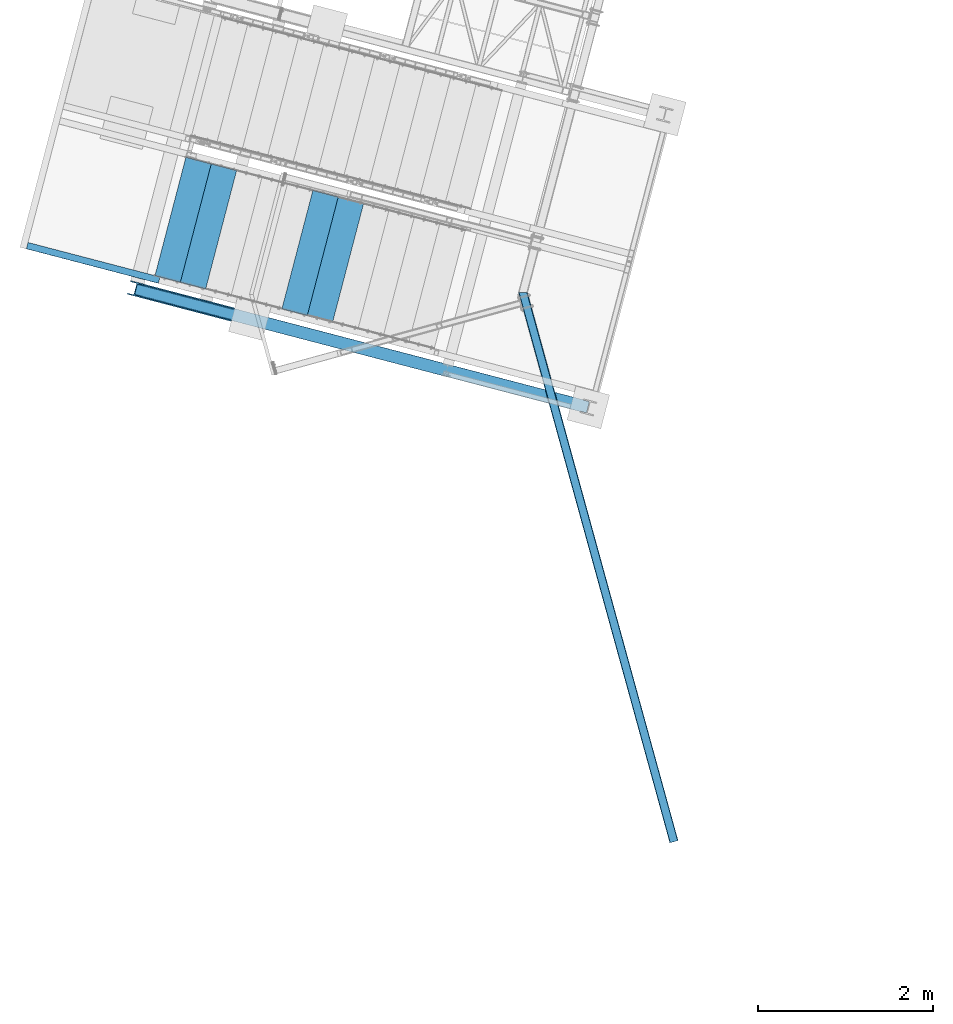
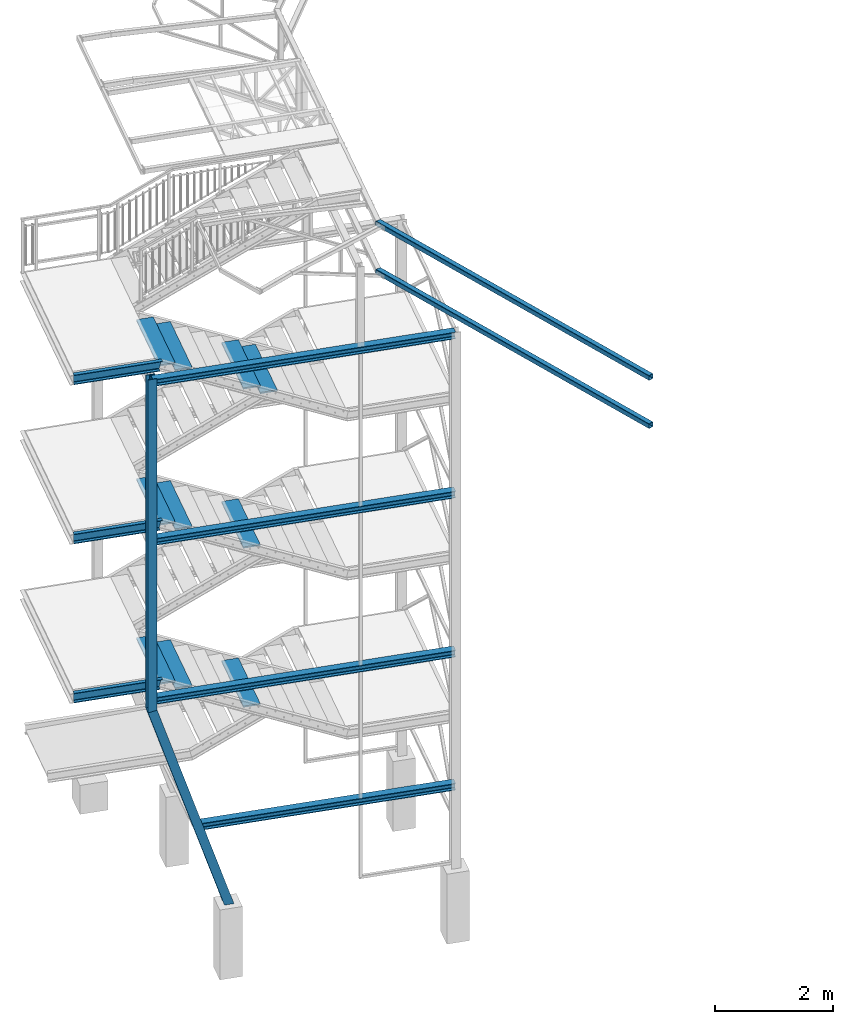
# One storey, part 33 of 169: 21 discrete accessories, 15 elements without a shape of their own.
"""IFC2X3 building model written with IfcOpenShell, lengths in millimetres."""

import ifcopenshell
import ifcopenshell.guid

model = None  # the IFC model being written
_history = None  # IfcOwnerHistory: only IFC2X3 demands one
_inside = {}  # id of a spatial element -> (the spatial element, [elements in it])
_under = {}  # id of a project, library or spatial element -> (it, [spatial elements below it])
_declared = {}  # id of a project -> (the project, [libraries it declares])
_typed = {}  # id of a type object -> (the type object, [elements of that type])
_made_of = {}  # id of a material, layer set ... -> (it, [elements and type objects made of it])


def new_model(schema):
    """Start an empty IFC model of exactly this schema.

    Asked for "IFC4X3", IfcOpenShell would pick the latest addendum, in which some entities
    have other attributes; the version numbers below select the first issue.
    IFC2X3 requires an IfcOwnerHistory on every rooted entity: one is made here for all.
    """
    global model, _history
    if schema == "IFC4X3":
        model = ifcopenshell.file(schema_version=(4, 3, 0, 0))
    else:
        model = ifcopenshell.file(schema=schema)
    _inside.clear()
    _under.clear()
    _declared.clear()
    _typed.clear()
    _made_of.clear()
    _history = None
    if model.schema == "IFC2X3":
        org = make("IfcOrganization", Name="unknown")
        user = make(
            "IfcPersonAndOrganization",
            ThePerson=make("IfcPerson", FamilyName="unknown"),
            TheOrganization=org,
        )
        app = make(
            "IfcApplication",
            ApplicationDeveloper=org,
            Version="unknown",
            ApplicationFullName="unknown",
            ApplicationIdentifier="unknown",
        )
        _history = make(
            "IfcOwnerHistory",
            OwningUser=user,
            OwningApplication=app,
            ChangeAction="ADDED",
            CreationDate=0,
        )
    return model


def make(cls, **values):
    """One entity of the class cls with the attributes given. An attribute that is None is left unset."""
    return model.create_entity(
        cls, **{name: value for name, value in values.items() if value is not None}
    )


def rooted(cls, **values):
    """An entity with a GlobalId (a new one), such as an element, a storey or a relation."""
    return make(cls, GlobalId=ifcopenshell.guid.new(), OwnerHistory=_history, **values)


def si_unit(unit_type, name, prefix=None):
    """IfcSIUnit, for example si_unit("LENGTHUNIT", "METRE", prefix="MILLI")."""
    return make("IfcSIUnit", UnitType=unit_type, Prefix=prefix, Name=name)


def assignment(units):
    """IfcUnitAssignment: the units of a project."""
    return None if units is None else make("IfcUnitAssignment", Units=units)


def point(xyz):
    """IfcCartesianPoint."""
    return None if xyz is None else make("IfcCartesianPoint", Coordinates=xyz)


def direction(xyz):
    """IfcDirection."""
    return None if xyz is None else make("IfcDirection", DirectionRatios=xyz)


def frame(location, z_axis=None, x_axis=None):
    """IfcAxis2Placement3D, a coordinate frame: its origin and axes. An axis left out is left unset."""
    return make(
        "IfcAxis2Placement3D",
        Location=point(location),
        Axis=direction(z_axis),
        RefDirection=direction(x_axis),
    )


def frame_2d(location, x_axis=None):
    """IfcAxis2Placement2D, a coordinate frame in the plane: its origin and x axis."""
    return make(
        "IfcAxis2Placement2D", Location=point(location), RefDirection=direction(x_axis)
    )


def origin_with_axes():
    """The frame at (0, 0, 0) with the z axis (0, 0, 1) and the x axis (1, 0, 0) written out."""
    return frame((0.0, 0.0, 0.0), z_axis=(0.0, 0.0, 1.0), x_axis=(1.0, 0.0, 0.0))


def origin_2d_with_axis():
    """The frame at (0, 0) in the plane with the x axis (1, 0) written out."""
    return frame_2d((0.0, 0.0), x_axis=(1.0, 0.0))


def place(relative_to, where):
    """IfcLocalPlacement: puts the frame where relative to a parent placement (None: the world)."""
    return make(
        "IfcLocalPlacement", PlacementRelTo=relative_to, RelativePlacement=where
    )


def context(
    kind, dimensions, precision=None, world=None, true_north=None, identifier=None
):
    """IfcGeometricRepresentationContext, for example the 3D "Model" context."""
    return make(
        "IfcGeometricRepresentationContext",
        ContextIdentifier=identifier,
        ContextType=kind,
        CoordinateSpaceDimension=dimensions,
        Precision=precision,
        WorldCoordinateSystem=world,
        TrueNorth=true_north,
    )


def subcontext(parent, identifier, kind, view, scale=None):
    """IfcGeometricRepresentationSubContext, for example "Body" below "Model"."""
    return make(
        "IfcGeometricRepresentationSubContext",
        ContextIdentifier=identifier,
        ContextType=kind,
        ParentContext=parent,
        TargetScale=scale,
        TargetView=view,
    )


def project(units=None, contexts=None):
    """IfcProject with its units and contexts."""
    return rooted(
        "IfcProject",
        Name="project",
        RepresentationContexts=contexts,
        UnitsInContext=assignment(units),
    )


def spatial(cls, under=None, at=None, **own):
    """A site, building, storey or space (cls), placed at a placement, below another one or the project."""
    s = rooted(cls, ObjectPlacement=at, **own)
    if under is not None:
        _under.setdefault(under.id(), (under, []))[1].append(s)
    return s


def polyline(points):
    """IfcPolyline through the points."""
    return make("IfcPolyline", Points=[point(p) for p in points])


def profile(cls, at=None, kind="AREA", **sizes):
    """A parametric profile (cls). Its sizes go by their IFC names, for example OverallWidth=200.0."""
    return make(cls, ProfileType=kind, Position=at, **sizes)


def hollow_rectangle(**sizes):
    """IfcRectangleHollowProfileDef."""
    return profile("IfcRectangleHollowProfileDef", **sizes)


def i_section(**sizes):
    """IfcIShapeProfileDef."""
    return profile("IfcIShapeProfileDef", **sizes)


def u_section(**sizes):
    """IfcUShapeProfileDef."""
    return profile("IfcUShapeProfileDef", **sizes)


def outline(outer, holes=None, kind="AREA"):
    """IfcArbitraryClosedProfileDef: a profile drawn as a closed curve; with holes, ...WithVoids."""
    if holes is None:
        return make("IfcArbitraryClosedProfileDef", ProfileType=kind, OuterCurve=outer)
    return make(
        "IfcArbitraryProfileDefWithVoids",
        ProfileType=kind,
        OuterCurve=outer,
        InnerCurves=holes,
    )


def extrude(swept, where, along, depth):
    """IfcExtrudedAreaSolid: the profile swept, set in the frame where, extruded along a direction by depth."""
    return make(
        "IfcExtrudedAreaSolid",
        SweptArea=swept,
        Position=where,
        ExtrudedDirection=direction(along),
        Depth=depth,
    )


def boolean(op, a, b):
    """IfcBooleanResult of two solids."""
    return make("IfcBooleanResult", Operator=op, FirstOperand=a, SecondOperand=b)


def clip(a, b, op="DIFFERENCE"):
    """IfcBooleanClippingResult: the solid a cut by the half space b."""
    return make(
        "IfcBooleanClippingResult", Operator=op, FirstOperand=a, SecondOperand=b
    )


def halfspace(plane, agree):
    """IfcHalfSpaceSolid: all space on one side of the plane z = 0 of the frame plane."""
    return make(
        "IfcHalfSpaceSolid",
        BaseSurface=make("IfcPlane", Position=plane),
        AgreementFlag=agree,
    )


def shape(context_of_items, identifier, shape_type, items):
    """IfcShapeRepresentation: the items that make up one representation, for example the "Body"."""
    return make(
        "IfcShapeRepresentation",
        ContextOfItems=context_of_items,
        RepresentationIdentifier=identifier,
        RepresentationType=shape_type,
        Items=items,
    )


def material(Name=None, Category=None):
    """IfcMaterial."""
    return make("IfcMaterial", Name=Name, Category=Category)


def made_of(thing, what):
    """Note that an element or type object is made of a material, layer set ...; save() writes the relation."""
    if what is not None:
        _made_of.setdefault(what.id(), (what, []))[1].append(thing)
    return thing


def type_object(cls, material=None, **own):
    """A type object (cls), such as IfcWallType, which elements share."""
    return made_of(rooted(cls, **own), material)


def element(
    cls,
    number,
    at=None,
    inside=None,
    cuts=None,
    type_object=None,
    material=None,
    context=None,
    identifier="Body",
    shape_type=None,
    held_by="IfcProductDefinitionShape",
    body=None,
    shapes=None,
    **own,
):
    """One element of the class cls, such as IfcWall. Its Tag is "e" and its number.

    at: its placement. inside: the storey or other place that contains it. cuts: it is an
    opening in that element (IfcRelVoidsElement). A single representation is given by context,
    identifier, shape_type and body (its items); several are given by shapes. held_by: the class
    of the entity that holds the representations. save() writes the other relations.
    """
    e = rooted(cls, Tag="e%d" % number, ObjectPlacement=at, **own)
    if body is not None:
        shapes = [shape(context, identifier, shape_type, body)]
    if shapes is not None:
        e.Representation = make(held_by, Representations=shapes)
    if inside is not None:
        _inside.setdefault(inside.id(), (inside, []))[1].append(e)
    if cuts is not None:
        rooted(
            "IfcRelVoidsElement", RelatingBuildingElement=cuts, RelatedOpeningElement=e
        )
    if type_object is not None:
        _typed.setdefault(type_object.id(), (type_object, []))[1].append(e)
    return made_of(e, material)


def aggregate(whole, parts):
    """IfcRelAggregates: a whole, such as a stair, and the parts it consists of."""
    return rooted("IfcRelAggregates", RelatingObject=whole, RelatedObjects=parts)


def save(model, path):
    """Write the relations noted so far, then the file.

    IfcRelAggregates (storeys below a building ...), IfcRelContainedInSpatialStructure (elements
    in a storey), IfcRelDefinesByType, IfcRelAssociatesMaterial and IfcRelDeclares: one each for
    every whole, place, type object, material and project.
    """
    for whole, parts in _under.values():
        aggregate(whole, parts)
    for where, things in _inside.values():
        rooted(
            "IfcRelContainedInSpatialStructure",
            RelatedElements=things,
            RelatingStructure=where,
        )
    for kind, things in _typed.values():
        rooted("IfcRelDefinesByType", RelatedObjects=things, RelatingType=kind)
    for what, things in _made_of.values():
        rooted("IfcRelAssociatesMaterial", RelatedObjects=things, RelatingMaterial=what)
    for by, libraries in _declared.values():
        rooted("IfcRelDeclares", RelatingContext=by, RelatedDefinitions=libraries)
    model.write(path)


model = new_model("IFC2X3")

# Units and contexts
model_context = context("Model", 3, precision=1e-05, world=origin_with_axes())
body_context = subcontext(model_context, "Body", "Model", "MODEL_VIEW")
ifc_project = project(units=[si_unit("LENGTHUNIT", "METRE", prefix="MILLI"), si_unit("AREAUNIT", "SQUARE_METRE"), si_unit("VOLUMEUNIT", "CUBIC_METRE"), si_unit("MASSUNIT", "GRAM", prefix="KILO"), si_unit("TIMEUNIT", "SECOND"), si_unit("PLANEANGLEUNIT", "RADIAN"), si_unit("SOLIDANGLEUNIT", "STERADIAN"), si_unit("THERMODYNAMICTEMPERATUREUNIT", "DEGREE_CELSIUS"), si_unit("LUMINOUSINTENSITYUNIT", "LUMEN")], contexts=[model_context])

# Site, building, storey
site_placement = place(None, origin_with_axes())
site = spatial("IfcSite", under=ifc_project, at=site_placement, Name="Undefined", CompositionType="ELEMENT")
building_placement = place(site_placement, origin_with_axes())
building = spatial("IfcBuilding", under=site, at=building_placement, Name="Undefined", CompositionType="ELEMENT")
storey_placement = place(building_placement, origin_with_axes())
storey = spatial("IfcBuildingStorey", under=building, at=storey_placement, Name="Undefined", CompositionType="ELEMENT", Elevation=0.0)

# Assembly, discrete accessories
assembly_1_placement = place(storey_placement, origin_with_axes())
assembly_1 = element("IfcElementAssembly", 1, at=assembly_1_placement, inside=storey, Name="Steel Assembly", AssemblyPlace="NOTDEFINED", PredefinedType="RIGID_FRAME")
ifc_material_1 = material(Name="STEEL/S235")
discrete_accessory_type_1 = type_object("IfcDiscreteAccessoryType", Name="BEAM")
discrete_accessory_1_placement = place(assembly_1_placement, frame((-24132.1487849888, 5632.8862653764, 13832.3761008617), z_axis=(-1.20319999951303e-05, -0.000145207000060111, 0.999999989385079), x_axis=(0.265016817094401, -0.964243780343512, -0.000136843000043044)))
discrete_accessory_1 = element("IfcDiscreteAccessory", 2, at=discrete_accessory_1_placement, type_object=discrete_accessory_type_1, material=ifc_material_1, Name="BEAM", ObjectType="SHS100*5", context=body_context, shape_type="Clipping", body=[
    clip(extrude(hollow_rectangle(XDim=100.0, YDim=100.0, WallThickness=5.0, InnerFilletRadius=5.0, OuterFilletRadius=10.0, at=origin_2d_with_axis()), frame((6524.3509407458, 4.40940386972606e-13, 0.0), z_axis=(-1.0, -3.46944695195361e-18, -1.38777878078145e-17), x_axis=(1.73472347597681e-18, -1.0, 0.0)), (0.0, 0.0, 1.0), 6550.94), halfspace(frame((-8.00061752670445e-06, -50.0280221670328, 0.0280535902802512), z_axis=(-0.965890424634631, 0.258951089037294, -0.00014520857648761), x_axis=(-2.21580194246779e-10, -0.000560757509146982, -0.999999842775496)), False)),
])
discrete_accessory_2_placement = place(assembly_1_placement, frame((-24132.1833539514, 5632.75386692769, 12832.3761102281), z_axis=(-1.20319999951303e-05, -0.000145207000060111, 0.999999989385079), x_axis=(0.265016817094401, -0.964243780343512, -0.000136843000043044)))
discrete_accessory_2 = element("IfcDiscreteAccessory", 3, at=discrete_accessory_2_placement, type_object=discrete_accessory_type_1, material=ifc_material_1, Name="BEAM", ObjectType="SHS100*5", context=body_context, shape_type="Clipping", body=[
    clip(extrude(hollow_rectangle(XDim=100.0, YDim=100.0, WallThickness=5.0, InnerFilletRadius=5.0, OuterFilletRadius=10.0, at=origin_2d_with_axis()), frame((6524.3509407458, 4.40940386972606e-13, 0.0), z_axis=(-1.0, -3.46944695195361e-18, -1.38777878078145e-17), x_axis=(1.73472347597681e-18, -1.0, 0.0)), (0.0, 0.0, 1.0), 6550.94), halfspace(frame((-8.00061752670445e-06, -50.0280221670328, 0.0280535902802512), z_axis=(-0.965890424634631, 0.258951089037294, -0.00014520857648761), x_axis=(-2.21580194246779e-10, -0.000560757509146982, -0.999999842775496)), False)),
])
aggregate(assembly_1, [discrete_accessory_1, discrete_accessory_2])

# Assembly, discrete accessory
assembly_2_placement = place(storey_placement, origin_with_axes())
assembly_2 = element("IfcElementAssembly", 4, at=assembly_2_placement, inside=storey, Name="Steel Assembly", AssemblyPlace="NOTDEFINED", PredefinedType="RIGID_FRAME")
ifc_material_2 = material(Name="STEEL/S235JR")
discrete_accessory_type_2 = type_object("IfcDiscreteAccessoryType", Name="STOPNIE")
discrete_accessory_3_placement = place(assembly_2_placement, frame((-27837.4602567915, 7130.10257650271, 12215.3215824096), z_axis=(-2.54700353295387e-10, 0.0, -1.0), x_axis=(-0.252694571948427, -0.96754609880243, 0.0)))
discrete_accessory_3 = element("IfcDiscreteAccessory", 5, at=discrete_accessory_3_placement, type_object=discrete_accessory_type_2, material=ifc_material_2, Name="STOPNIE", ObjectType="PL30*300", context=body_context, shape_type="SweptSolid", body=[
    extrude(outline(polyline([(1400.00000144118, 150.000000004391), (1400.0000014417, -149.999999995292), (3.45607986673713e-11, -150.00000000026), (-3.09228198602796e-11, 150.000000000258), (1400.00000144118, 150.000000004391)])), frame((1.81898940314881e-12, 3.72231275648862e-23, -15.0000000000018), z_axis=(0.0, 0.0, 1.0), x_axis=(1.0, 0.0, 0.0)), (0.0, 0.0, 1.0), 30.0),
])
aggregate(assembly_2, [discrete_accessory_3])

assembly_3_placement = place(storey_placement, origin_with_axes())
assembly_3 = element("IfcElementAssembly", 6, at=assembly_3_placement, inside=storey, Name="Steel Assembly", AssemblyPlace="NOTDEFINED", PredefinedType="RIGID_FRAME")
discrete_accessory_4_placement = place(assembly_3_placement, frame((-27547.1964237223, 7054.29420414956, 12065.3215824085), z_axis=(-2.54700353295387e-10, 0.0, -1.0), x_axis=(-0.252694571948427, -0.96754609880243, 0.0)))
discrete_accessory_4 = element("IfcDiscreteAccessory", 7, at=discrete_accessory_4_placement, type_object=discrete_accessory_type_2, material=ifc_material_2, Name="STOPNIE", ObjectType="PL30*300", context=body_context, shape_type="SweptSolid", body=[
    extrude(outline(polyline([(1400.00000144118, 150.000000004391), (1400.0000014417, -149.999999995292), (3.45607986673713e-11, -150.00000000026), (-3.09228198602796e-11, 150.000000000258), (1400.00000144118, 150.000000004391)])), frame((1.81898940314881e-12, 3.72231275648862e-23, -15.0000000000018), z_axis=(0.0, 0.0, 1.0), x_axis=(1.0, 0.0, 0.0)), (0.0, 0.0, 1.0), 30.0),
])
aggregate(assembly_3, [discrete_accessory_4])

assembly_4_placement = place(storey_placement, origin_with_axes())
assembly_4 = element("IfcElementAssembly", 8, at=assembly_4_placement, inside=storey, Name="Steel Assembly", AssemblyPlace="NOTDEFINED", PredefinedType="RIGID_FRAME")
discrete_accessory_5_placement = place(assembly_4_placement, frame((-26386.1410914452, 6751.06071473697, 11465.3215824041), z_axis=(-2.54700353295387e-10, 0.0, -1.0), x_axis=(-0.252694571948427, -0.96754609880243, 0.0)))
discrete_accessory_5 = element("IfcDiscreteAccessory", 9, at=discrete_accessory_5_placement, type_object=discrete_accessory_type_2, material=ifc_material_2, Name="STOPNIE", ObjectType="PL30*300", context=body_context, shape_type="SweptSolid", body=[
    extrude(outline(polyline([(1400.00000144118, 150.000000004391), (1400.0000014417, -149.999999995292), (3.45607986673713e-11, -150.00000000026), (-3.09228198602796e-11, 150.000000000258), (1400.00000144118, 150.000000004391)])), frame((1.81898940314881e-12, 3.72231275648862e-23, -15.0000000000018), z_axis=(0.0, 0.0, 1.0), x_axis=(1.0, 0.0, 0.0)), (0.0, 0.0, 1.0), 30.0),
])
aggregate(assembly_4, [discrete_accessory_5])

assembly_5_placement = place(storey_placement, origin_with_axes())
assembly_5 = element("IfcElementAssembly", 10, at=assembly_5_placement, inside=storey, Name="Steel Assembly", AssemblyPlace="NOTDEFINED", PredefinedType="RIGID_FRAME")
discrete_accessory_6_placement = place(assembly_5_placement, frame((-26095.8772583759, 6675.25234238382, 11315.321582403), z_axis=(-2.54700353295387e-10, 0.0, -1.0), x_axis=(-0.252694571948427, -0.96754609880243, 0.0)))
discrete_accessory_6 = element("IfcDiscreteAccessory", 11, at=discrete_accessory_6_placement, type_object=discrete_accessory_type_2, material=ifc_material_2, Name="STOPNIE", ObjectType="PL30*300", context=body_context, shape_type="SweptSolid", body=[
    extrude(outline(polyline([(1400.00000144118, 150.000000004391), (1400.0000014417, -149.999999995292), (3.45607986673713e-11, -150.00000000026), (-3.09228198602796e-11, 150.000000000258), (1400.00000144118, 150.000000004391)])), frame((1.81898940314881e-12, 3.72231275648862e-23, -15.0000000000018), z_axis=(0.0, 0.0, 1.0), x_axis=(1.0, 0.0, 0.0)), (0.0, 0.0, 1.0), 30.0),
])
aggregate(assembly_5, [discrete_accessory_6])

assembly_6_placement = place(storey_placement, origin_with_axes())
assembly_6 = element("IfcElementAssembly", 12, at=assembly_6_placement, inside=storey, Name="Steel Assembly", AssemblyPlace="NOTDEFINED", PredefinedType="RIGID_FRAME")
discrete_accessory_7_placement = place(assembly_6_placement, frame((-27837.5743341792, 7129.66566154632, 8915.3216133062), z_axis=(-2.54700353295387e-10, 0.0, -1.0), x_axis=(-0.252694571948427, -0.96754609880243, 0.0)))
discrete_accessory_7 = element("IfcDiscreteAccessory", 13, at=discrete_accessory_7_placement, type_object=discrete_accessory_type_2, material=ifc_material_2, Name="STOPNIE", ObjectType="PL30*300", context=body_context, shape_type="SweptSolid", body=[
    extrude(outline(polyline([(1400.00000144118, 150.000000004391), (1400.0000014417, -149.999999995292), (3.45607986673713e-11, -150.00000000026), (-3.09228198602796e-11, 150.000000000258), (1400.00000144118, 150.000000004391)])), frame((1.81898940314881e-12, 3.72231275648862e-23, -15.0000000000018), z_axis=(0.0, 0.0, 1.0), x_axis=(1.0, 0.0, 0.0)), (0.0, 0.0, 1.0), 30.0),
])
aggregate(assembly_6, [discrete_accessory_7])

assembly_7_placement = place(storey_placement, origin_with_axes())
assembly_7 = element("IfcElementAssembly", 14, at=assembly_7_placement, inside=storey, Name="Steel Assembly", AssemblyPlace="NOTDEFINED", PredefinedType="RIGID_FRAME")
discrete_accessory_8_placement = place(assembly_7_placement, frame((-27547.3105011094, 7053.85728919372, 8765.32161330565), z_axis=(-2.54700353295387e-10, 0.0, -1.0), x_axis=(-0.252694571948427, -0.96754609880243, 0.0)))
discrete_accessory_8 = element("IfcDiscreteAccessory", 15, at=discrete_accessory_8_placement, type_object=discrete_accessory_type_2, material=ifc_material_2, Name="STOPNIE", ObjectType="PL30*300", context=body_context, shape_type="SweptSolid", body=[
    extrude(outline(polyline([(1400.00000144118, 150.000000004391), (1400.0000014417, -149.999999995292), (3.45607986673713e-11, -150.00000000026), (-3.09228198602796e-11, 150.000000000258), (1400.00000144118, 150.000000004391)])), frame((1.81898940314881e-12, 3.72231275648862e-23, -15.0000000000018), z_axis=(0.0, 0.0, 1.0), x_axis=(1.0, 0.0, 0.0)), (0.0, 0.0, 1.0), 30.0),
])
aggregate(assembly_7, [discrete_accessory_8])

assembly_8_placement = place(storey_placement, origin_with_axes())
assembly_8 = element("IfcElementAssembly", 16, at=assembly_8_placement, inside=storey, Name="Steel Assembly", AssemblyPlace="NOTDEFINED", PredefinedType="RIGID_FRAME")
discrete_accessory_9_placement = place(assembly_8_placement, frame((-26386.2551688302, 6750.62379978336, 8165.32161330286), z_axis=(-2.54700353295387e-10, 0.0, -1.0), x_axis=(-0.252694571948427, -0.96754609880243, 0.0)))
discrete_accessory_9 = element("IfcDiscreteAccessory", 17, at=discrete_accessory_9_placement, type_object=discrete_accessory_type_2, material=ifc_material_2, Name="STOPNIE", ObjectType="PL30*300", context=body_context, shape_type="SweptSolid", body=[
    extrude(outline(polyline([(1400.00000144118, 150.000000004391), (1400.0000014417, -149.999999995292), (3.45607986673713e-11, -150.00000000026), (-3.09228198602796e-11, 150.000000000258), (1400.00000144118, 150.000000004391)])), frame((1.81898940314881e-12, 3.72231275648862e-23, -15.0000000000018), z_axis=(0.0, 0.0, 1.0), x_axis=(1.0, 0.0, 0.0)), (0.0, 0.0, 1.0), 30.0),
])
aggregate(assembly_8, [discrete_accessory_9])

assembly_9_placement = place(storey_placement, origin_with_axes())
assembly_9 = element("IfcElementAssembly", 18, at=assembly_9_placement, inside=storey, Name="Steel Assembly", AssemblyPlace="NOTDEFINED", PredefinedType="RIGID_FRAME")
discrete_accessory_10_placement = place(assembly_9_placement, frame((-27837.6884116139, 7129.22874660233, 5615.32164420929), z_axis=(-2.54700353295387e-10, 0.0, -1.0), x_axis=(-0.252694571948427, -0.96754609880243, 0.0)))
discrete_accessory_10 = element("IfcDiscreteAccessory", 19, at=discrete_accessory_10_placement, type_object=discrete_accessory_type_2, material=ifc_material_2, Name="STOPNIE", ObjectType="PL30*300", context=body_context, shape_type="SweptSolid", body=[
    extrude(outline(polyline([(1400.00000144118, 150.000000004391), (1400.0000014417, -149.999999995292), (3.45607986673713e-11, -150.00000000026), (-3.09228198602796e-11, 150.000000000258), (1400.00000144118, 150.000000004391)])), frame((1.81898940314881e-12, 3.72231275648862e-23, -15.0000000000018), z_axis=(0.0, 0.0, 1.0), x_axis=(1.0, 0.0, 0.0)), (0.0, 0.0, 1.0), 30.0),
])
aggregate(assembly_9, [discrete_accessory_10])

assembly_10_placement = place(storey_placement, origin_with_axes())
assembly_10 = element("IfcElementAssembly", 20, at=assembly_10_placement, inside=storey, Name="Steel Assembly", AssemblyPlace="NOTDEFINED", PredefinedType="RIGID_FRAME")
discrete_accessory_11_placement = place(assembly_10_placement, frame((-27547.4245785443, 7053.42037425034, 5465.32164420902), z_axis=(-2.54700353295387e-10, 0.0, -1.0), x_axis=(-0.252694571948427, -0.96754609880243, 0.0)))
discrete_accessory_11 = element("IfcDiscreteAccessory", 21, at=discrete_accessory_11_placement, type_object=discrete_accessory_type_2, material=ifc_material_2, Name="STOPNIE", ObjectType="PL30*300", context=body_context, shape_type="SweptSolid", body=[
    extrude(outline(polyline([(1400.00000144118, 150.000000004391), (1400.0000014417, -149.999999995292), (3.45607986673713e-11, -150.00000000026), (-3.09228198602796e-11, 150.000000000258), (1400.00000144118, 150.000000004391)])), frame((1.81898940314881e-12, 3.72231275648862e-23, -15.0000000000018), z_axis=(0.0, 0.0, 1.0), x_axis=(1.0, 0.0, 0.0)), (0.0, 0.0, 1.0), 30.0),
])
aggregate(assembly_10, [discrete_accessory_11])

assembly_11_placement = place(storey_placement, origin_with_axes())
assembly_11 = element("IfcElementAssembly", 22, at=assembly_11_placement, inside=storey, Name="Steel Assembly", AssemblyPlace="NOTDEFINED", PredefinedType="RIGID_FRAME")
discrete_accessory_12_placement = place(assembly_11_placement, frame((-26386.3692462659, 6750.18688484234, 4865.32164420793), z_axis=(-2.54700353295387e-10, 0.0, -1.0), x_axis=(-0.252694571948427, -0.96754609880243, 0.0)))
discrete_accessory_12 = element("IfcDiscreteAccessory", 23, at=discrete_accessory_12_placement, type_object=discrete_accessory_type_2, material=ifc_material_2, Name="STOPNIE", ObjectType="PL30*300", context=body_context, shape_type="SweptSolid", body=[
    extrude(outline(polyline([(1400.00000144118, 150.000000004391), (1400.0000014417, -149.999999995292), (3.45607986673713e-11, -150.00000000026), (-3.09228198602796e-11, 150.000000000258), (1400.00000144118, 150.000000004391)])), frame((1.81898940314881e-12, 3.72231275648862e-23, -15.0000000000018), z_axis=(0.0, 0.0, 1.0), x_axis=(1.0, 0.0, 0.0)), (0.0, 0.0, 1.0), 30.0),
])
aggregate(assembly_11, [discrete_accessory_12])

assembly_12_placement = place(storey_placement, origin_with_axes())
assembly_12 = element("IfcElementAssembly", 24, at=assembly_12_placement, inside=storey, Name="Steel Assembly", AssemblyPlace="NOTDEFINED", PredefinedType="RIGID_FRAME")
discrete_accessory_type_3 = type_object("IfcDiscreteAccessoryType", Name="BELKA")
discrete_accessory_13_placement = place(assembly_12_placement, frame((-29797.1597386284, 6156.20109549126, 12250.3215669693), z_axis=(0.0, 0.0, 1.0), x_axis=(0.96754609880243, -0.252694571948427, 0.0)))
discrete_accessory_13 = element("IfcDiscreteAccessory", 25, at=discrete_accessory_13_placement, type_object=discrete_accessory_type_3, material=ifc_material_1, Name="BELKA", ObjectType="UPN200", context=body_context, shape_type="Clipping", body=[
    clip(extrude(u_section(Depth=200.0, FlangeWidth=75.0, WebThickness=8.5, FlangeThickness=11.5, FilletRadius=11.5, EdgeRadius=6.0, at=origin_2d_with_axis()), frame((1597.2768548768, 0.0, 0.0), z_axis=(-1.0, -3.46944695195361e-18, -1.38777878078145e-17), x_axis=(1.73472347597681e-18, -1.0, 0.0)), (0.0, 0.0, 1.0), 1597.28), halfspace(frame((1559.99999933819, -37.499998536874, 99.9999999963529), z_axis=(-0.973248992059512, 5.5925641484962e-10, 0.229752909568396), x_axis=(1.73472347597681e-18, -1.0, 0.0)), True)),
])
aggregate(assembly_12, [discrete_accessory_13])

assembly_13_placement = place(storey_placement, origin_with_axes())
assembly_13 = element("IfcElementAssembly", 26, at=assembly_13_placement, inside=storey, Name="Steel Assembly", AssemblyPlace="NOTDEFINED", PredefinedType="RIGID_FRAME")
discrete_accessory_14_placement = place(assembly_13_placement, frame((-29797.2738160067, 6155.76418052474, 8950.32159785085), z_axis=(0.0, 0.0, 1.0), x_axis=(0.96754609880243, -0.252694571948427, 0.0)))
discrete_accessory_14 = element("IfcDiscreteAccessory", 27, at=discrete_accessory_14_placement, type_object=discrete_accessory_type_3, material=ifc_material_1, Name="BELKA", ObjectType="UPN200", context=body_context, shape_type="Clipping", body=[
    clip(extrude(u_section(Depth=200.0, FlangeWidth=75.0, WebThickness=8.5, FlangeThickness=11.5, FilletRadius=11.5, EdgeRadius=6.0, at=origin_2d_with_axis()), frame((1597.2768548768, 0.0, 0.0), z_axis=(-1.0, -3.46944695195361e-18, -1.38777878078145e-17), x_axis=(1.73472347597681e-18, -1.0, 0.0)), (0.0, 0.0, 1.0), 1597.28), halfspace(frame((1559.99999933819, -37.499998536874, 99.9999999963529), z_axis=(-0.973248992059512, 5.5925641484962e-10, 0.229752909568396), x_axis=(1.73472347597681e-18, -1.0, 0.0)), True)),
])
aggregate(assembly_13, [discrete_accessory_14])

assembly_14_placement = place(storey_placement, origin_with_axes())
assembly_14 = element("IfcElementAssembly", 28, at=assembly_14_placement, inside=storey, Name="Steel Assembly", AssemblyPlace="NOTDEFINED", PredefinedType="RIGID_FRAME")
discrete_accessory_15_placement = place(assembly_14_placement, frame((-29797.3878934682, 6155.32726560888, 5650.32162876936), z_axis=(0.0, 0.0, 1.0), x_axis=(0.96754609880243, -0.252694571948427, 0.0)))
discrete_accessory_15 = element("IfcDiscreteAccessory", 29, at=discrete_accessory_15_placement, type_object=discrete_accessory_type_3, material=ifc_material_1, Name="BELKA", ObjectType="UPN200", context=body_context, shape_type="Clipping", body=[
    clip(extrude(u_section(Depth=200.0, FlangeWidth=75.0, WebThickness=8.5, FlangeThickness=11.5, FilletRadius=11.5, EdgeRadius=6.0, at=origin_2d_with_axis()), frame((1597.2768548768, 0.0, 0.0), z_axis=(-1.0, -3.46944695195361e-18, -1.38777878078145e-17), x_axis=(1.73472347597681e-18, -1.0, 0.0)), (0.0, 0.0, 1.0), 1597.28), halfspace(frame((1559.99999933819, -37.499998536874, 99.9999999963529), z_axis=(-0.973248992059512, 5.5925641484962e-10, 0.229752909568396), x_axis=(1.73472347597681e-18, -1.0, 0.0)), True)),
])
aggregate(assembly_14, [discrete_accessory_15])

# Assembly, discrete accessories
assembly_15_placement = place(storey_placement, origin_with_axes())
assembly_15 = element("IfcElementAssembly", 30, at=assembly_15_placement, inside=storey, Name="Steel Assembly", AssemblyPlace="NOTDEFINED", PredefinedType="RIGID_FRAME")
discrete_accessory_type_4 = type_object("IfcDiscreteAccessoryType", Name="COLUMN")
discrete_accessory_16_placement = place(assembly_15_placement, frame((-28480.0362585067, 5639.03828258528, 12070.4454073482), z_axis=(3.4552000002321e-05, 0.000132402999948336, 0.999999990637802), x_axis=(0.967563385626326, -0.252628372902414, 0.0)))
discrete_accessory_16 = element("IfcDiscreteAccessory", 31, at=discrete_accessory_16_placement, type_object=discrete_accessory_type_4, material=ifc_material_1, Name="COLUMN", ObjectType="HEB140", context=body_context, shape_type="CSG", body=[
    boolean("DIFFERENCE", boolean("DIFFERENCE", boolean("DIFFERENCE", boolean("DIFFERENCE", boolean("DIFFERENCE", boolean("DIFFERENCE", boolean("DIFFERENCE", boolean("DIFFERENCE", extrude(i_section(OverallWidth=140.0, OverallDepth=140.0, WebThickness=7.0, FlangeThickness=12.0, FilletRadius=12.0, at=origin_2d_with_axis()), frame((5265.00000257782, -1.62481139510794e-13, 1.81902508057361e-12), z_axis=(-1.0, -3.46944695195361e-18, -1.38777878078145e-17), x_axis=(1.73472347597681e-18, -1.0, 0.0)), (0.0, 0.0, 1.0), 5340.0), extrude(outline(polyline([(0.0, 0.0), (15.9999999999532, -1.09139364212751e-11), (15.9999999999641, 10.8000001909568), (0.699999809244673, 26.1000003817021), (-1.00044417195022e-11, 26.1000003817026), (0.0, 0.0)])), frame((-86.0999985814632, -67.0000029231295, 75.000000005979), z_axis=(-2.54700353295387e-10, 0.0, -1.0), x_axis=(0.0, 1.0, 0.0)), (0.0, 0.0, 1.0), 150.0)), extrude(outline(polyline([(0.0, 0.0), (15.9999999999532, -1.09139364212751e-11), (15.9999999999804, 26.1000003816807), (15.300000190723, 26.1000003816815), (-4.89245427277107e-12, 10.8000001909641), (0.0, 0.0)])), frame((-86.0999985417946, 50.9999971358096, 75.0000000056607), z_axis=(-2.54700353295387e-10, 0.0, -1.0), x_axis=(0.0, 1.0, 0.0)), (0.0, 0.0, 1.0), 150.0)), extrude(outline(polyline([(0.0, 0.0), (85.0000000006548, 2.81943357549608e-10), (85.0000000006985, 14.0000028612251), (2.02362571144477e-11, 14.000007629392), (0.0, 0.0)])), frame((-84.999998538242, 65.9999970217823, -79.9999999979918), z_axis=(0.0, 0.0, 1.0), x_axis=(1.0, 0.0, 0.0)), (0.0, 0.0, 1.0), 160.0)), extrude(outline(polyline([(0.0, 0.0), (85.0000000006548, 2.81943357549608e-10), (85.0000000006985, 14.0000028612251), (2.02362571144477e-11, 14.000007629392), (0.0, 0.0)])), frame((-84.9999985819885, -66.0000029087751, 80.0000000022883), z_axis=(-2.54700353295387e-10, 0.0, -1.0), x_axis=(1.0, 0.0, 0.0)), (0.0, 0.0, 1.0), 160.0)), extrude(outline(polyline([(0.0, 0.0), (19832.263671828, -6.06269168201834e-09), (19832.263671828, 14.0000047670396), (2.02362571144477e-11, 14.000007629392), (0.0, 0.0)])), frame((25022.2628449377, 65.9999885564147, 79.9999957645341), z_axis=(-2.54700353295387e-10, 0.0, -1.0), x_axis=(-1.0, -3.46944695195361e-18, -1.38777878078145e-17)), (0.0, 0.0, 1.0), 160.0)), extrude(outline(polyline([(0.0, 0.0), (19832.263671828, -6.06269168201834e-09), (19832.263671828, 14.0000047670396), (2.02362571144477e-11, 14.000007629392), (0.0, 0.0)])), frame((25022.2628448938, -66.000011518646, -80.0000041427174), z_axis=(0.0, 0.0, 1.0), x_axis=(-1.0, -3.46944695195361e-18, -1.38777878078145e-17)), (0.0, 0.0, 1.0), 160.0)), halfspace(frame((5265.00000282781, 69.9999999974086, 1070.00000396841), z_axis=(1.0, 0.0, 0.0), x_axis=(0.0, 1.0, 0.0)), False)), halfspace(frame((-74.9999983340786, -69.999999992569, 1070.0000011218), z_axis=(-1.0, -3.46944695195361e-18, -1.38777878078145e-17), x_axis=(1.73472347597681e-18, -1.0, 0.0)), False)),
])
discrete_accessory_17_placement = place(assembly_15_placement, frame((-28480.1503359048, 5638.60136763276, 8770.44543824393), z_axis=(3.4552000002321e-05, 0.000132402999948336, 0.999999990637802), x_axis=(0.967563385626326, -0.252628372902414, 0.0)))
discrete_accessory_17 = element("IfcDiscreteAccessory", 32, at=discrete_accessory_17_placement, type_object=discrete_accessory_type_4, material=ifc_material_1, Name="COLUMN", ObjectType="HEB140", context=body_context, shape_type="CSG", body=[
    boolean("DIFFERENCE", boolean("DIFFERENCE", boolean("DIFFERENCE", boolean("DIFFERENCE", boolean("DIFFERENCE", boolean("DIFFERENCE", boolean("DIFFERENCE", boolean("DIFFERENCE", extrude(i_section(OverallWidth=140.0, OverallDepth=140.0, WebThickness=7.0, FlangeThickness=12.0, FilletRadius=12.0, at=origin_2d_with_axis()), frame((5265.00000257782, -1.62481139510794e-13, 1.81902508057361e-12), z_axis=(-1.0, -3.46944695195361e-18, -1.38777878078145e-17), x_axis=(1.73472347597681e-18, -1.0, 0.0)), (0.0, 0.0, 1.0), 5340.0), extrude(outline(polyline([(0.0, 0.0), (15.9999999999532, -1.09139364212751e-11), (15.9999999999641, 10.8000001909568), (0.699999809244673, 26.1000003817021), (-1.00044417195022e-11, 26.1000003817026), (0.0, 0.0)])), frame((-86.0999985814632, -67.0000029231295, 75.000000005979), z_axis=(-2.54700353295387e-10, 0.0, -1.0), x_axis=(0.0, 1.0, 0.0)), (0.0, 0.0, 1.0), 150.0)), extrude(outline(polyline([(0.0, 0.0), (15.9999999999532, -1.09139364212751e-11), (15.9999999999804, 26.1000003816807), (15.300000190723, 26.1000003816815), (-4.89245427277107e-12, 10.8000001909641), (0.0, 0.0)])), frame((-86.0999985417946, 50.9999971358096, 75.0000000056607), z_axis=(-2.54700353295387e-10, 0.0, -1.0), x_axis=(0.0, 1.0, 0.0)), (0.0, 0.0, 1.0), 150.0)), extrude(outline(polyline([(0.0, 0.0), (85.0000000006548, 2.81943357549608e-10), (85.0000000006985, 14.0000028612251), (2.02362571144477e-11, 14.000007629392), (0.0, 0.0)])), frame((-84.999998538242, 65.9999970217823, -79.9999999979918), z_axis=(0.0, 0.0, 1.0), x_axis=(1.0, 0.0, 0.0)), (0.0, 0.0, 1.0), 160.0)), extrude(outline(polyline([(0.0, 0.0), (85.0000000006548, 2.81943357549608e-10), (85.0000000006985, 14.0000028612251), (2.02362571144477e-11, 14.000007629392), (0.0, 0.0)])), frame((-84.9999985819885, -66.0000029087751, 80.0000000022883), z_axis=(-2.54700353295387e-10, 0.0, -1.0), x_axis=(1.0, 0.0, 0.0)), (0.0, 0.0, 1.0), 160.0)), extrude(outline(polyline([(0.0, 0.0), (19832.3808593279, -5.96014615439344e-09), (19832.380859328, 14.0000028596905), (2.02362571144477e-11, 14.000007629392), (0.0, 0.0)])), frame((25022.3807466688, 65.9999899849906, 79.9999957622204), z_axis=(-2.54700353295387e-10, 0.0, -1.0), x_axis=(-1.0, -3.46944695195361e-18, -1.38777878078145e-17)), (0.0, 0.0, 1.0), 160.0)), extrude(outline(polyline([(0.0, 0.0), (19832.3808593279, -5.96014615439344e-09), (19832.380859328, 14.0000028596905), (2.02362571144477e-11, 14.000007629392), (0.0, 0.0)])), frame((25022.3807466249, -66.0000100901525, -80.0000041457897), z_axis=(0.0, 0.0, 1.0), x_axis=(-1.0, -3.46944695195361e-18, -1.38777878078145e-17)), (0.0, 0.0, 1.0), 160.0)), halfspace(frame((5265.00000282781, 69.9999999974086, 1070.00000396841), z_axis=(1.0, 0.0, 0.0), x_axis=(0.0, 1.0, 0.0)), False)), halfspace(frame((-74.9999983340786, -69.999999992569, 1070.0000011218), z_axis=(-1.0, -3.46944695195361e-18, -1.38777878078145e-17), x_axis=(1.73472347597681e-18, -1.0, 0.0)), False)),
])
discrete_accessory_18_placement = place(assembly_15_placement, frame((-28480.2644133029, 5638.16445268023, 5470.44546913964), z_axis=(3.4552000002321e-05, 0.000132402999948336, 0.999999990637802), x_axis=(0.967563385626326, -0.252628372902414, 0.0)))
discrete_accessory_18 = element("IfcDiscreteAccessory", 33, at=discrete_accessory_18_placement, type_object=discrete_accessory_type_4, material=ifc_material_1, Name="COLUMN", ObjectType="HEB140", context=body_context, shape_type="CSG", body=[
    boolean("DIFFERENCE", boolean("DIFFERENCE", boolean("DIFFERENCE", boolean("DIFFERENCE", boolean("DIFFERENCE", boolean("DIFFERENCE", boolean("DIFFERENCE", boolean("DIFFERENCE", extrude(i_section(OverallWidth=140.0, OverallDepth=140.0, WebThickness=7.0, FlangeThickness=12.0, FilletRadius=12.0, at=origin_2d_with_axis()), frame((5265.00000257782, -1.62481139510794e-13, 1.81902508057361e-12), z_axis=(-1.0, -3.46944695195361e-18, -1.38777878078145e-17), x_axis=(1.73472347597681e-18, -1.0, 0.0)), (0.0, 0.0, 1.0), 5340.0), extrude(outline(polyline([(0.0, 0.0), (15.9999999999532, -1.09139364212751e-11), (15.9999999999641, 10.8000001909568), (0.699999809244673, 26.1000003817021), (-1.00044417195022e-11, 26.1000003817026), (0.0, 0.0)])), frame((-86.0999985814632, -67.0000029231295, 75.000000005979), z_axis=(-2.54700353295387e-10, 0.0, -1.0), x_axis=(0.0, 1.0, 0.0)), (0.0, 0.0, 1.0), 150.0)), extrude(outline(polyline([(0.0, 0.0), (15.9999999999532, -1.09139364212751e-11), (15.9999999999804, 26.1000003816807), (15.300000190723, 26.1000003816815), (-4.89245427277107e-12, 10.8000001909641), (0.0, 0.0)])), frame((-86.0999985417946, 50.9999971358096, 75.0000000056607), z_axis=(-2.54700353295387e-10, 0.0, -1.0), x_axis=(0.0, 1.0, 0.0)), (0.0, 0.0, 1.0), 150.0)), extrude(outline(polyline([(0.0, 0.0), (85.0000000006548, 2.81943357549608e-10), (85.0000000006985, 14.0000028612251), (2.02362571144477e-11, 14.000007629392), (0.0, 0.0)])), frame((-84.999998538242, 65.9999970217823, -79.9999999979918), z_axis=(0.0, 0.0, 1.0), x_axis=(1.0, 0.0, 0.0)), (0.0, 0.0, 1.0), 160.0)), extrude(outline(polyline([(0.0, 0.0), (85.0000000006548, 2.81943357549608e-10), (85.0000000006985, 14.0000028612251), (2.02362571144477e-11, 14.000007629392), (0.0, 0.0)])), frame((-84.9999985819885, -66.0000029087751, 80.0000000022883), z_axis=(-2.54700353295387e-10, 0.0, -1.0), x_axis=(1.0, 0.0, 0.0)), (0.0, 0.0, 1.0), 160.0)), extrude(outline(polyline([(0.0, 0.0), (19832.498046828, -6.04654815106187e-09), (19832.498046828, 14.0000019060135), (2.02362571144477e-11, 14.000007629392), (0.0, 0.0)])), frame((25022.4986483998, 65.9999914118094, 79.9999958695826), z_axis=(-2.54700353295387e-10, 0.0, -1.0), x_axis=(-1.0, -3.46944695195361e-18, -1.38777878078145e-17)), (0.0, 0.0, 1.0), 160.0)), extrude(outline(polyline([(0.0, 0.0), (19832.498046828, -6.04654815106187e-09), (19832.498046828, 14.0000019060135), (2.02362571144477e-11, 14.000007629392), (0.0, 0.0)])), frame((25022.498648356, -66.0000086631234, -80.0000041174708), z_axis=(0.0, 0.0, 1.0), x_axis=(-1.0, -3.46944695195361e-18, -1.38777878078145e-17)), (0.0, 0.0, 1.0), 160.0)), halfspace(frame((5265.00000282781, 69.9999999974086, 1070.00000396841), z_axis=(1.0, 0.0, 0.0), x_axis=(0.0, 1.0, 0.0)), False)), halfspace(frame((-74.9999983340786, -69.999999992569, 1070.0000011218), z_axis=(-1.0, -3.46944695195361e-18, -1.38777878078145e-17), x_axis=(1.73472347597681e-18, -1.0, 0.0)), False)),
])
discrete_accessory_19_placement = place(assembly_15_placement, frame((-27770.9651139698, 5452.57785372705, 2710.44549498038), z_axis=(3.4552000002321e-05, 0.000132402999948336, 0.999999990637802), x_axis=(0.967563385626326, -0.252628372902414, 0.0)))
discrete_accessory_19 = element("IfcDiscreteAccessory", 34, at=discrete_accessory_19_placement, type_object=discrete_accessory_type_4, material=ifc_material_1, Name="COLUMN", ObjectType="HEB140", context=body_context, shape_type="CSG", body=[
    boolean("DIFFERENCE", boolean("DIFFERENCE", boolean("DIFFERENCE", boolean("DIFFERENCE", boolean("DIFFERENCE", boolean("DIFFERENCE", boolean("DIFFERENCE", boolean("DIFFERENCE", extrude(i_section(OverallWidth=140.0, OverallDepth=140.0, WebThickness=7.0, FlangeThickness=12.0, FilletRadius=12.0, at=origin_2d_with_axis()), frame((4531.82352852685, -9.09494701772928e-13, -4.54747350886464e-13), z_axis=(-1.0, -3.46944695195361e-18, -1.38777878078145e-17), x_axis=(1.73472347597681e-18, -1.0, 0.0)), (0.0, 0.0, 1.0), 4526.58), extrude(outline(polyline([(0.0, 0.0), (15.9999999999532, -1.09139364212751e-11), (15.9999999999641, 10.8000001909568), (0.699999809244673, 26.1000003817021), (-1.00044417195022e-11, 26.1000003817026), (0.0, 0.0)])), frame((-30.6171223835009, -66.9999998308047, 76.2379851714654), z_axis=(0.302740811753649, -5.14842480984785e-10, -0.953072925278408), x_axis=(0.0, 1.0, 0.0)), (0.0, 0.0, 1.0), 166.4)), extrude(outline(polyline([(0.0, 0.0), (15.9999999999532, -1.09139364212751e-11), (15.9999999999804, 26.1000003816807), (15.300000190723, 26.1000003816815), (-4.89245427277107e-12, 10.8000001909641), (0.0, 0.0)])), frame((-30.6171223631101, 51.0000002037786, 76.237985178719), z_axis=(0.302740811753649, -5.14842480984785e-10, -0.953072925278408), x_axis=(0.0, 1.0, 0.0)), (0.0, 0.0, 1.0), 166.4)), extrude(outline(polyline([(0.0, 0.0), (85.0000000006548, 2.81943357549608e-10), (85.0000000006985, 14.0000028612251), (2.02362571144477e-11, 14.000007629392), (0.0, 0.0)])), frame((-36.9556179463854, -65.999999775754, 99.8259794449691), z_axis=(0.302740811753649, -5.14842480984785e-10, -0.953072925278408), x_axis=(0.953072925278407, 1.45476180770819e-10, 0.302740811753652)), (0.0, 0.0, 1.0), 215.2)), extrude(outline(polyline([(0.0, 0.0), (85.0000000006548, 2.81943357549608e-10), (85.0000000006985, 14.0000028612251), (2.02362571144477e-11, 14.000007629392), (0.0, 0.0)])), frame((28.1942047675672, 66.0000000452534, -105.275314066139), z_axis=(-0.302740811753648, 5.91415674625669e-10, 0.953072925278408), x_axis=(0.953072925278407, 1.45476180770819e-10, 0.302740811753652)), (0.0, 0.0, 1.0), 215.2)), extrude(outline(polyline([(0.0, 0.0), (20696.1210937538, 1.80762071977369e-10), (20696.1210937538, 14.000000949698), (2.02362571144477e-11, 14.000007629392), (0.0, 0.0)])), frame((25152.9439546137, 65.9999923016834, 79.9999956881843), z_axis=(-2.54700353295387e-10, 0.0, -1.0), x_axis=(-1.0, -3.46944695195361e-18, -1.38777878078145e-17)), (0.0, 0.0, 1.0), 160.0)), extrude(outline(polyline([(0.0, 0.0), (20696.1210937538, 1.80762071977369e-10), (20696.1210937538, 14.000000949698), (2.02362571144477e-11, 14.000007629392), (0.0, 0.0)])), frame((25152.94395457, -66.0000077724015, -80.0000043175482), z_axis=(0.0, 0.0, 1.0), x_axis=(-1.0, -3.46944695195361e-18, -1.38777878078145e-17)), (0.0, 0.0, 1.0), 160.0)), halfspace(frame((4531.82352877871, 69.9999999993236, 1070.00000411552), z_axis=(1.0, 0.0, 0.0), x_axis=(0.0, 1.0, 0.0)), False)), halfspace(frame((-318.17283290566, -70.0000000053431, 1018.17098913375), z_axis=(-0.953072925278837, 1.9166595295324e-10, -0.302740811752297), x_axis=(1.73472347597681e-18, -1.0, 0.0)), False)),
])
discrete_accessory_20_placement = place(assembly_15_placement, frame((-28557.6763979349, 5658.34824281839, 5270.44547101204), z_axis=(3.4552000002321e-05, 0.000132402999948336, 0.999999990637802), x_axis=(0.252628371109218, 0.967563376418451, -0.000136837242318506)))
discrete_accessory_20 = element("IfcDiscreteAccessory", 35, at=discrete_accessory_20_placement, type_object=discrete_accessory_type_4, material=ifc_material_1, Name="COLUMN", ObjectType="HEB160", context=body_context, shape_type="Clipping", body=[
    clip(extrude(i_section(OverallWidth=160.0, OverallDepth=160.0, WebThickness=8.0, FlangeThickness=13.0, FilletRadius=15.0, at=origin_2d_with_axis()), frame((3.41041837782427e-12, -3.63799881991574e-12, 6889.99999999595), z_axis=(-2.54700353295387e-10, 0.0, -1.0), x_axis=(0.0, 1.0, 0.0)), (0.0, 0.0, 1.0), 6902.58), halfspace(frame((-7.12434484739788e-08, -80.0000001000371, 12.4005943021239), z_axis=(6.14521866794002e-10, 0.15317812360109, 0.988198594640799), x_axis=(-1.0, -3.46944695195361e-18, -1.38777878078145e-17)), True)),
])
discrete_accessory_21_placement = place(assembly_15_placement, frame((-28557.6763979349, 5658.34824281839, 5270.44547101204), z_axis=(-0.252628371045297, -0.967563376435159, 0.000136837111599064), x_axis=(0.292887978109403, -0.0766071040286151, -0.953072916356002)))
discrete_accessory_21 = element("IfcDiscreteAccessory", 36, at=discrete_accessory_21_placement, type_object=discrete_accessory_type_4, material=ifc_material_1, Name="COLUMN", ObjectType="HEB160", context=body_context, shape_type="Clipping", body=[
    clip(clip(extrude(i_section(OverallWidth=160.0, OverallDepth=160.0, WebThickness=8.0, FlangeThickness=13.0, FilletRadius=15.0, at=origin_2d_with_axis()), frame((4545.28052968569, -2.52313754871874e-13, 9.15038705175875e-13), z_axis=(-1.0, -3.46944695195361e-18, -1.38777878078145e-17), x_axis=(1.73472347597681e-18, -1.0, 0.0)), (0.0, 0.0, 1.0), 4631.3), halfspace(frame((4461.18332354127, 6.05481826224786, 1000.00000024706), z_axis=(-0.953072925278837, 0.302740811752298, -2.23275332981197e-10), x_axis=(-0.302740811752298, -0.953072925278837, 5.20191860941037e-10)), True)), halfspace(frame((12.4005943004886, 80.0000001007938, 5.93111053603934e-08), z_axis=(-0.988198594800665, 0.153178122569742, -3.79816911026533e-10), x_axis=(0.0, 0.0, 1.0)), False)),
])
aggregate(assembly_15, [discrete_accessory_16, discrete_accessory_17, discrete_accessory_18, discrete_accessory_19, discrete_accessory_20, discrete_accessory_21])

save(model, "model.ifc")
